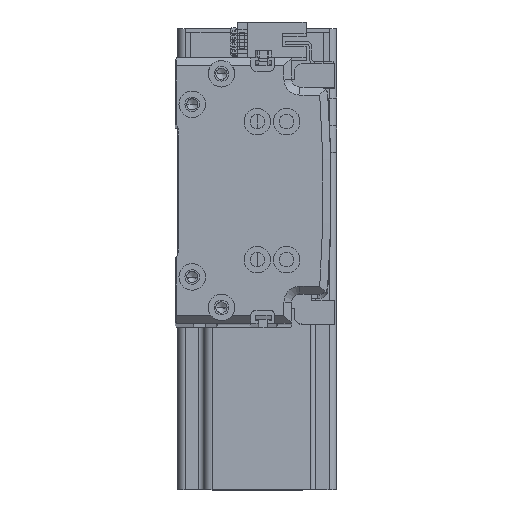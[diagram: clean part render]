
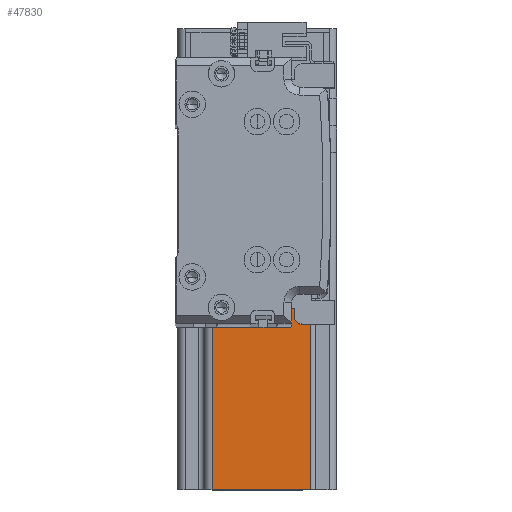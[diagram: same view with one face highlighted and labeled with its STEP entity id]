
A CAD part, top view. The second image highlights one B-rep face of the part: STEP entity #47830.
In plain terms, the highlighted planar face has unit normal (0, 0, 1) as drawn and (-1, 0, 0) by its records, which use the part's own axes.
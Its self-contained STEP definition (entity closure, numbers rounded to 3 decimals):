
#552 = LINE ( 'NONE', #11300, #11060 ) ;
#638 = CARTESIAN_POINT ( 'NONE',  ( -30., -17., 10. ) ) ;
#1996 = LINE ( 'NONE', #29669, #21911 ) ;
#2666 = VECTOR ( 'NONE', #10848, 1000. ) ;
#2713 = DIRECTION ( 'NONE',  ( 0., 0., 1. ) ) ;
#5201 = DIRECTION ( 'NONE',  ( 0., -1., 0. ) ) ;
#5704 = CARTESIAN_POINT ( 'NONE',  ( -30., -30., 137. ) ) ;
#6771 = VERTEX_POINT ( 'NONE', #24633 ) ;
#9238 = VERTEX_POINT ( 'NONE', #638 ) ;
#9531 = PLANE ( 'NONE',  #37177 ) ;
#9697 = DIRECTION ( 'NONE',  ( 0., 0., -1. ) ) ;
#10166 = ORIENTED_EDGE ( 'NONE', *, *, #48884, .F. ) ;
#10848 = DIRECTION ( 'NONE',  ( 0., -1., 0. ) ) ;
#10980 = ORIENTED_EDGE ( 'NONE', *, *, #50040, .T. ) ;
#11060 = VECTOR ( 'NONE', #35174, 1000. ) ;
#11300 = CARTESIAN_POINT ( 'NONE',  ( -30., 27., 137. ) ) ;
#12090 = VECTOR ( 'NONE', #37921, 1000. ) ;
#12324 = CARTESIAN_POINT ( 'NONE',  ( -30., -30., 10. ) ) ;
#12374 = VERTEX_POINT ( 'NONE', #34146 ) ;
#13550 = ORIENTED_EDGE ( 'NONE', *, *, #25260, .T. ) ;
#14544 = CARTESIAN_POINT ( 'NONE',  ( -30., -17., 137. ) ) ;
#14584 = LINE ( 'NONE', #21905, #12090 ) ;
#14663 = LINE ( 'NONE', #41637, #46448 ) ;
#14865 = CARTESIAN_POINT ( 'NONE',  ( -30., -30., 0. ) ) ;
#16977 = LINE ( 'NONE', #50317, #26337 ) ;
#17787 = DIRECTION ( 'NONE',  ( 0., -1., 0. ) ) ;
#21473 = ORIENTED_EDGE ( 'NONE', *, *, #46761, .T. ) ;
#21786 = CARTESIAN_POINT ( 'NONE',  ( -30., 27., 0. ) ) ;
#21905 = CARTESIAN_POINT ( 'NONE',  ( -30., 20., 10. ) ) ;
#21911 = VECTOR ( 'NONE', #33669, 1000. ) ;
#22666 = EDGE_CURVE ( 'NONE', #27724, #40830, #14584, .T. ) ;
#23115 = ORIENTED_EDGE ( 'NONE', *, *, #43585, .F. ) ;
#24044 = EDGE_CURVE ( 'NONE', #9238, #6771, #34896, .T. ) ;
#24322 = VECTOR ( 'NONE', #38414, 1000. ) ;
#24428 = VECTOR ( 'NONE', #5201, 1000. ) ;
#24633 = CARTESIAN_POINT ( 'NONE',  ( -30., -17., 137. ) ) ;
#25260 = EDGE_CURVE ( 'NONE', #31787, #50481, #552, .T. ) ;
#26337 = VECTOR ( 'NONE', #2713, 1000. ) ;
#27049 = CARTESIAN_POINT ( 'NONE',  ( -30., -27., 10. ) ) ;
#27724 = VERTEX_POINT ( 'NONE', #34820 ) ;
#29669 = CARTESIAN_POINT ( 'NONE',  ( -30., 30., 10. ) ) ;
#31582 = EDGE_LOOP ( 'NONE', ( #23115, #47771, #10166, #38659, #21473, #13550, #10980, #50116 ) ) ;
#31787 = VERTEX_POINT ( 'NONE', #49964 ) ;
#32258 = CARTESIAN_POINT ( 'NONE',  ( -30., 20., 137. ) ) ;
#33548 = DIRECTION ( 'NONE',  ( 1., 0., 0. ) ) ;
#33669 = DIRECTION ( 'NONE',  ( 0., 1., 0. ) ) ;
#34146 = CARTESIAN_POINT ( 'NONE',  ( -30., -27., 0. ) ) ;
#34820 = CARTESIAN_POINT ( 'NONE',  ( -30., 20., 10. ) ) ;
#34896 = LINE ( 'NONE', #14544, #24322 ) ;
#35174 = DIRECTION ( 'NONE',  ( 0., 0., -1. ) ) ;
#37177 = AXIS2_PLACEMENT_3D ( 'NONE', #5704, #33548, #9697 ) ;
#37921 = DIRECTION ( 'NONE',  ( 0., 0., 1. ) ) ;
#38414 = DIRECTION ( 'NONE',  ( 0., 0., 1. ) ) ;
#38659 = ORIENTED_EDGE ( 'NONE', *, *, #22666, .F. ) ;
#39127 = VERTEX_POINT ( 'NONE', #27049 ) ;
#40830 = VERTEX_POINT ( 'NONE', #32258 ) ;
#41637 = CARTESIAN_POINT ( 'NONE',  ( -30., -30., 137. ) ) ;
#43585 = EDGE_CURVE ( 'NONE', #9238, #39127, #46837, .T. ) ;
#46264 = LINE ( 'NONE', #14865, #2666 ) ;
#46448 = VECTOR ( 'NONE', #17787, 1000. ) ;
#46761 = EDGE_CURVE ( 'NONE', #27724, #31787, #1996, .T. ) ;
#46837 = LINE ( 'NONE', #12324, #24428 ) ;
#47771 = ORIENTED_EDGE ( 'NONE', *, *, #24044, .T. ) ;
#47830 = ADVANCED_FACE ( 'NONE', ( #50256 ), #9531, .F. ) ;
#48884 = EDGE_CURVE ( 'NONE', #40830, #6771, #14663, .T. ) ;
#49960 = EDGE_CURVE ( 'NONE', #12374, #39127, #16977, .T. ) ;
#49964 = CARTESIAN_POINT ( 'NONE',  ( -30., 27., 10. ) ) ;
#50040 = EDGE_CURVE ( 'NONE', #50481, #12374, #46264, .T. ) ;
#50116 = ORIENTED_EDGE ( 'NONE', *, *, #49960, .T. ) ;
#50256 = FACE_OUTER_BOUND ( 'NONE', #31582, .T. ) ;
#50317 = CARTESIAN_POINT ( 'NONE',  ( -30., -27., 137. ) ) ;
#50481 = VERTEX_POINT ( 'NONE', #21786 ) ;
